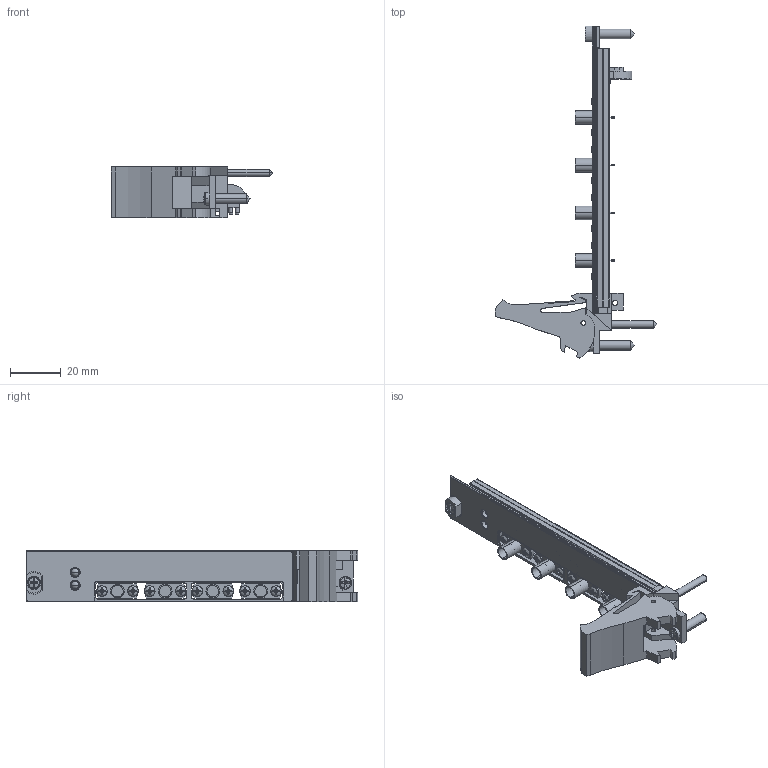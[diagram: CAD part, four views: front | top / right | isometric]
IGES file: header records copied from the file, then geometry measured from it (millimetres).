
Start section:  PTC IGES file: cu_pxi-569x.igs
Global section: file name: cu_pxi-569x.igs; native system: Pro/ENGINEER by Parametric Technology Corporation; preprocessor: 2006080; author: jjorden; organization: Unknown; date: 091231.111740; units: inch
Bounding box: 63.53 x 130.5 x 20.31 mm (x, y, z)
Surface area: 18198.7 mm2 (no closed solid volume)
Topology: 0 solids, 0 shells, 894 faces, 4462 edges, 4290 vertices
Faces by surface type: bspline 621, revolution 273
